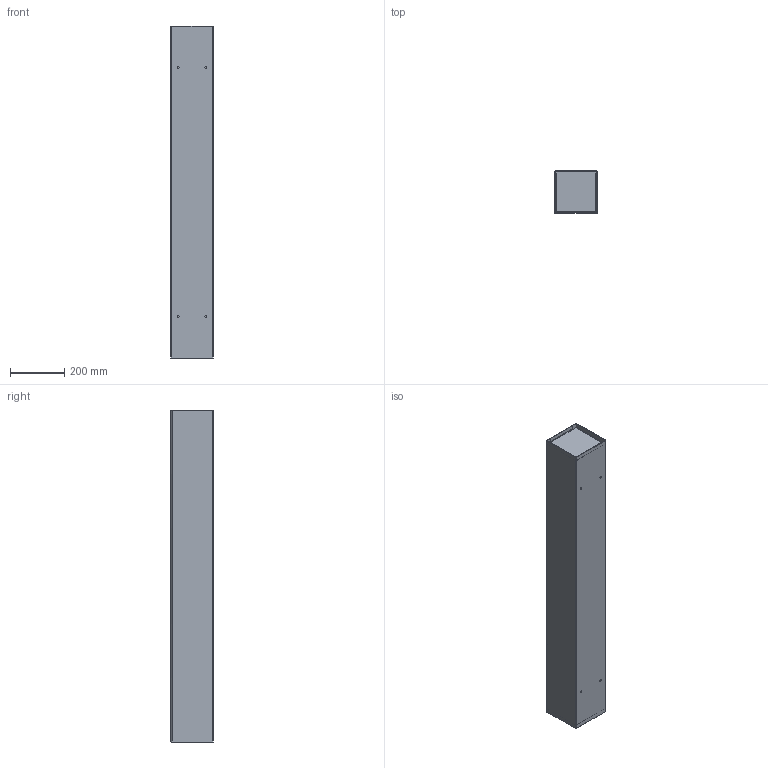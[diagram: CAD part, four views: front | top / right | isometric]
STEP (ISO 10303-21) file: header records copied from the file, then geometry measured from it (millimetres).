
FILE_DESCRIPTION(( 'STEP AP214 file generated by I-DEAS Master Series'),'2;1');
FILE_NAME('D:\A00506\a6648t1t.stp','2002-12-05T15:31:12',('A00506'),( 'unspecified'),'I-DEAS Master Series 7m2 : Design', 'I-DEAS Master Series 7m2 : Design','unspecified');
FILE_SCHEMA(('AUTOMOTIVE_DESIGN_CC2 { 1 2 10303 214 -1 1 5 3 }'));
Length unit declared in the file: inch
Products named in the file (4): 6648_assy; 87545832; 87568362; 87568416
Assembly tree (4 placements, depth 2):
  6648_assy
    87545832
    87568362
    87568416  x2
Bounding box: 156.21 x 155.07 x 1219.2 mm (x, y, z)
Volume: 1184041.7 mm3; surface area: 1706488.8 mm2
Topology: 4 solids, 4 shells, 224 faces, 512 edges, 304 vertices
Faces by surface type: bspline 224
Entity records: 5347 total; most frequent: CARTESIAN_POINT 2813, ORIENTED_EDGE 788, EDGE_CURVE 394, VERTEX_POINT 236, EDGE_LOOP 220, FACE_OUTER_BOUND 172, ADVANCED_FACE 172, QUASI_UNIFORM_CURVE 172
